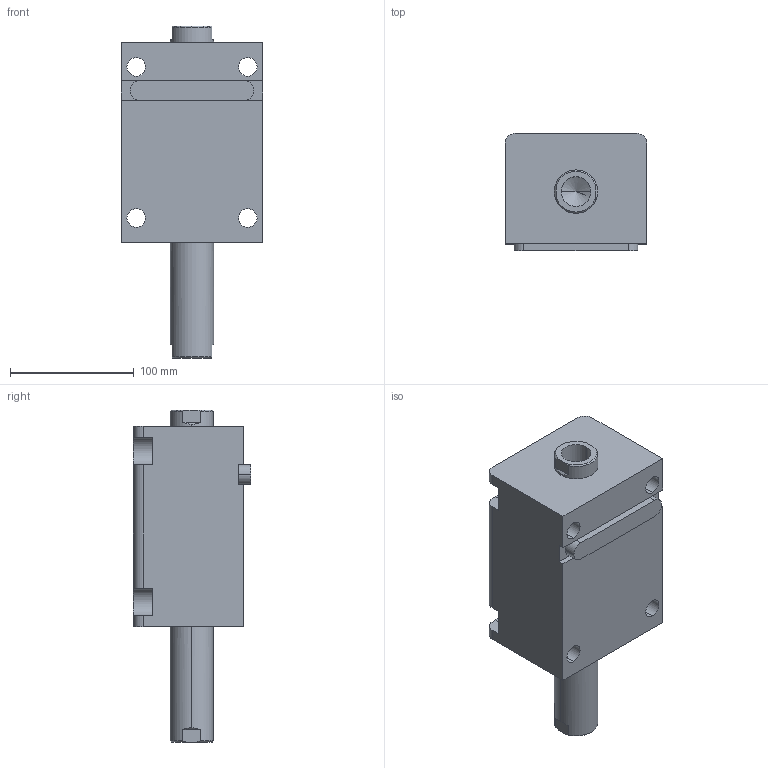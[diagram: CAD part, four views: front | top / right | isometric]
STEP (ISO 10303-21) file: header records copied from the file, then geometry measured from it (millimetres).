
FILE_DESCRIPTION (( 'STEP AP203' ), '1' );
FILE_NAME ('HTB-LW63-80N.STEP', '2019-10-09T08:28:46', ( '微软用户' ), ( '微软中国' ), 'SwSTEP 2.0', 'SolidWorks 2012', '' );
FILE_SCHEMA (( 'CONFIG_CONTROL_DESIGN' ));
Length unit declared in the file: millimetre
Products named in the file (4): HTB-LW63-80N; HTB-LA63-瑩; HTB-LW63-80N活塞杆; HTB-LW63-80掛极
Assembly tree (3 placements, depth 2):
  HTB-LW63-80N
    HTB-LW63-80掛极
    HTB-LW63-80N活塞杆
    HTB-LA63-瑩
Bounding box: 114 x 94.5 x 268 mm (x, y, z)
Volume: 1457734 mm3; surface area: 178785.6 mm2
Topology: 3 solids, 3 shells, 101 faces, 253 edges, 164 vertices
Faces by surface type: plane 44, cylinder 41, cone 12, torus 4
Entity records: 3467 total; most frequent: CARTESIAN_POINT 576, DIRECTION 549, ORIENTED_EDGE 498, EDGE_CURVE 249, AXIS2_PLACEMENT_3D 209, VERTEX_POINT 164, VECTOR 131, LINE 131
